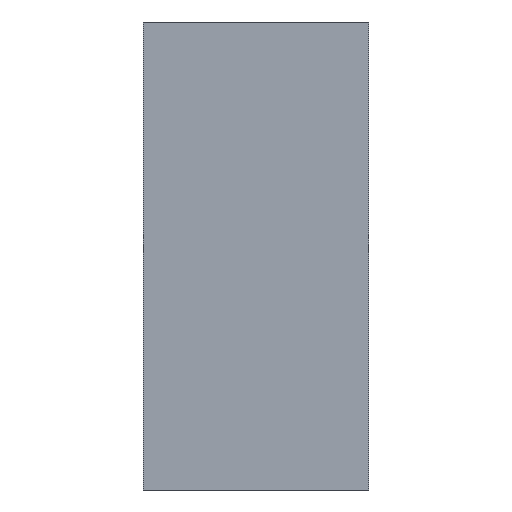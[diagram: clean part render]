
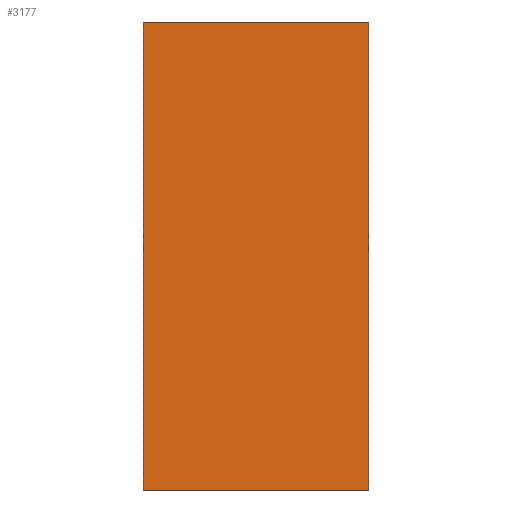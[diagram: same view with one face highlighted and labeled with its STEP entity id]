
A CAD part, front view. The second image highlights one B-rep face of the part: STEP entity #3177.
In plain terms, the highlighted planar face has unit normal (0, -1, 0).
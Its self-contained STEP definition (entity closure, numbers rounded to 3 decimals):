
#29 = DIRECTION ( 'NONE',  ( 0., 1., 0. ) ) ;
#39 = VECTOR ( 'NONE', #345, 1000. ) ;
#92 = ORIENTED_EDGE ( 'NONE', *, *, #1209, .F. ) ;
#146 = CARTESIAN_POINT ( 'NONE',  ( -221.5, 0., 460. ) ) ;
#345 = DIRECTION ( 'NONE',  ( 1., 0., 0. ) ) ;
#380 = CARTESIAN_POINT ( 'NONE',  ( 221.5, 0., 460. ) ) ;
#598 = ORIENTED_EDGE ( 'NONE', *, *, #3127, .T. ) ;
#702 = DIRECTION ( 'NONE',  ( 0., 0., -1. ) ) ;
#816 = AXIS2_PLACEMENT_3D ( 'NONE', #896, #29, #2066 ) ;
#896 = CARTESIAN_POINT ( 'NONE',  ( 221.5, 0., 460. ) ) ;
#1032 = EDGE_CURVE ( 'NONE', #2376, #3320, #2163, .T. ) ;
#1209 = EDGE_CURVE ( 'NONE', #1956, #2376, #2733, .T. ) ;
#1245 = VECTOR ( 'NONE', #702, 1000. ) ;
#1935 = CARTESIAN_POINT ( 'NONE',  ( 221.5, 0., 460. ) ) ;
#1954 = VECTOR ( 'NONE', #2890, 1000. ) ;
#1956 = VERTEX_POINT ( 'NONE', #3466 ) ;
#2066 = DIRECTION ( 'NONE',  ( 0., 0., 1. ) ) ;
#2163 = LINE ( 'NONE', #380, #1245 ) ;
#2283 = LINE ( 'NONE', #146, #3839 ) ;
#2376 = VERTEX_POINT ( 'NONE', #1935 ) ;
#2475 = ORIENTED_EDGE ( 'NONE', *, *, #2741, .T. ) ;
#2600 = DIRECTION ( 'NONE',  ( 0., 0., -1. ) ) ;
#2616 = CARTESIAN_POINT ( 'NONE',  ( 221.5, 0., -460. ) ) ;
#2641 = ORIENTED_EDGE ( 'NONE', *, *, #1032, .F. ) ;
#2673 = PLANE ( 'NONE',  #816 ) ;
#2733 = LINE ( 'NONE', #3633, #39 ) ;
#2741 = EDGE_CURVE ( 'NONE', #1956, #3305, #2283, .T. ) ;
#2787 = EDGE_LOOP ( 'NONE', ( #598, #2641, #92, #2475 ) ) ;
#2890 = DIRECTION ( 'NONE',  ( 1., 0., 0. ) ) ;
#2989 = FACE_OUTER_BOUND ( 'NONE', #2787, .T. ) ;
#3107 = CARTESIAN_POINT ( 'NONE',  ( -221.5, 0., -460. ) ) ;
#3127 = EDGE_CURVE ( 'NONE', #3305, #3320, #3751, .T. ) ;
#3177 = ADVANCED_FACE ( 'NONE', ( #2989 ), #2673, .F. ) ;
#3305 = VERTEX_POINT ( 'NONE', #3107 ) ;
#3320 = VERTEX_POINT ( 'NONE', #3728 ) ;
#3466 = CARTESIAN_POINT ( 'NONE',  ( -221.5, 0., 460. ) ) ;
#3633 = CARTESIAN_POINT ( 'NONE',  ( 221.5, 0., 460. ) ) ;
#3728 = CARTESIAN_POINT ( 'NONE',  ( 221.5, 0., -460. ) ) ;
#3751 = LINE ( 'NONE', #2616, #1954 ) ;
#3839 = VECTOR ( 'NONE', #2600, 1000. ) ;
